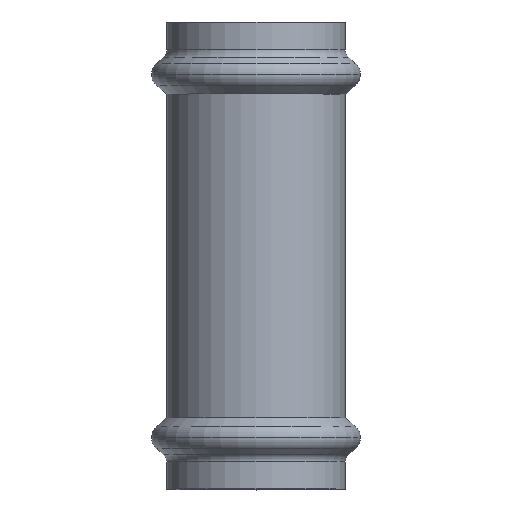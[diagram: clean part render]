
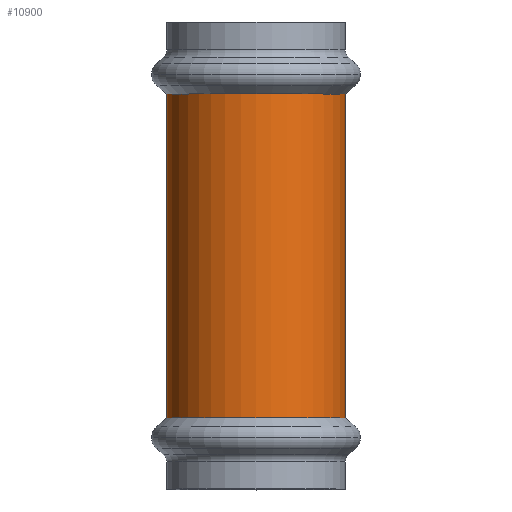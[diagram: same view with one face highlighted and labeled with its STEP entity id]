
A CAD part, top view. The second image highlights one B-rep face of the part: STEP entity #10900.
In plain terms, the highlighted cylindrical face has radius 22.9 mm (diameter 45.8 mm), a partial arc.
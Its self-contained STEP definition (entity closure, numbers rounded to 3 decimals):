
#460=CARTESIAN_POINT('',(53.906,59.566,
0.));
#470=VERTEX_POINT('',#460);
#520=CARTESIAN_POINT('',(31.006,59.566,0.));
#530=DIRECTION('',(0.,1.,0.));
#540=DIRECTION('',(1.,0.,0.));
#550=AXIS2_PLACEMENT_3D('',#520,#530,#540);
#560=CIRCLE('',#550,22.9);
#570=CARTESIAN_POINT('',(8.106,59.566,0.));
#580=VERTEX_POINT('',#570);
#590=EDGE_CURVE('',#580,#470,#560,.T.);
#5550=CARTESIAN_POINT('',(31.006,-14.743,0.));
#5560=DIRECTION('',(0.,-1.,0.));
#5570=DIRECTION('',(-1.,0.,0.));
#5580=AXIS2_PLACEMENT_3D('',#5550,#5560,#5570);
#5590=CYLINDRICAL_SURFACE('',#5580,22.9);
#5600=CARTESIAN_POINT('',(8.106,-14.743,0.));
#5610=DIRECTION('',(0.,-1.,0.));
#5620=VECTOR('',#5610,1.);
#5630=LINE('',#5600,#5620);
#5640=CARTESIAN_POINT('',(8.106,-23.513,0.));
#5650=VERTEX_POINT('',#5640);
#5660=EDGE_CURVE('',#580,#5650,#5630,.T.);
#5680=CARTESIAN_POINT('',(31.006,-23.513,0.));
#5690=DIRECTION('',(0.,-1.,0.));
#5700=DIRECTION('',(-1.,0.,0.));
#5710=AXIS2_PLACEMENT_3D('',#5680,#5690,#5700);
#5720=CIRCLE('',#5710,22.9);
#5730=CARTESIAN_POINT('',(53.906,-23.513,
0.));
#5740=VERTEX_POINT('',#5730);
#5770=CARTESIAN_POINT('',(53.906,-14.743,
0.));
#5780=DIRECTION('',(0.,-1.,0.));
#5790=VECTOR('',#5780,1.);
#5800=LINE('',#5770,#5790);
#5810=EDGE_CURVE('',#470,#5740,#5800,.T.);
#6010=EDGE_CURVE('',#5740,#5650,#5720,.T.);
#10840=ORIENTED_EDGE('',*,*,#590,.F.);
#10850=ORIENTED_EDGE('',*,*,#5810,.F.);
#10860=ORIENTED_EDGE('',*,*,#6010,.F.);
#10870=ORIENTED_EDGE('',*,*,#5660,.T.);
#10880=EDGE_LOOP('',(#10870,#10860,#10850,#10840));
#10890=FACE_OUTER_BOUND('',#10880,.T.);
#10900=ADVANCED_FACE('',(#10890),#5590,.T.);
